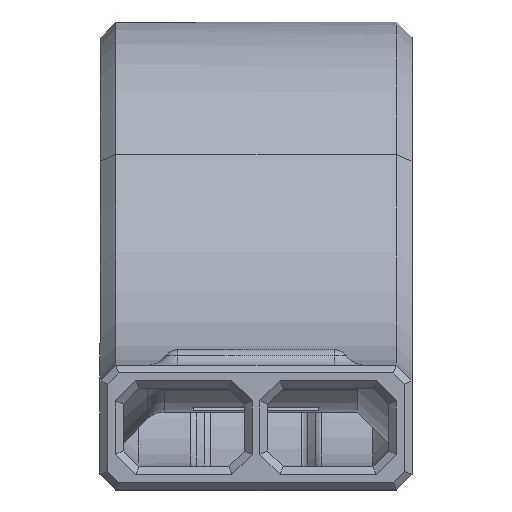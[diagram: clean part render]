
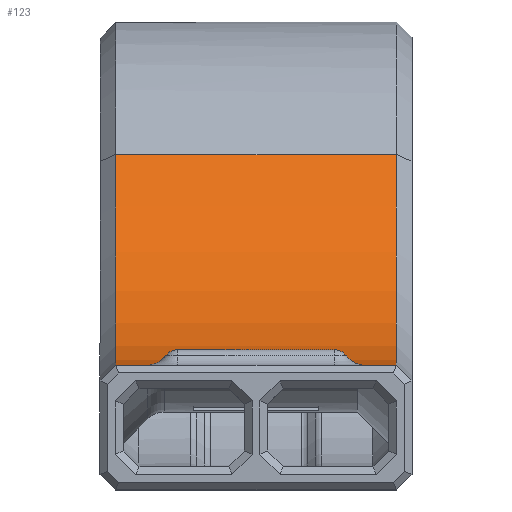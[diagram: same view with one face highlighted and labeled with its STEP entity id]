
A CAD part, left-side view. The second image highlights one B-rep face of the part: STEP entity #123.
In plain terms, the highlighted cylindrical face has radius 23.841 mm (diameter 47.682 mm), a partial arc.
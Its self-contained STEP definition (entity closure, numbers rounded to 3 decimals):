
#78 = CARTESIAN_POINT ( 'NONE',  ( -35., 19., -7. ) ) ;
#123 = ADVANCED_FACE ( 'NONE', ( #3523 ), #5487, .F. ) ;
#401 = DIRECTION ( 'NONE',  ( 0., -1., 0. ) ) ;
#1052 = VERTEX_POINT ( 'NONE', #78 ) ;
#1134 = VECTOR ( 'NONE', #2060, 1000. ) ;
#1349 = LINE ( 'NONE', #1837, #5750 ) ;
#1745 = EDGE_CURVE ( 'NONE', #4617, #6886, #2747, .T. ) ;
#1837 = CARTESIAN_POINT ( 'NONE',  ( -13.517, 20., 6.504 ) ) ;
#2060 = DIRECTION ( 'NONE',  ( 0., -1., 0. ) ) ;
#2095 = CARTESIAN_POINT ( 'NONE',  ( -35., 20., 16.841 ) ) ;
#2118 = EDGE_CURVE ( 'NONE', #5045, #1052, #6701, .T. ) ;
#2154 = DIRECTION ( 'NONE',  ( 0., -1., 0. ) ) ;
#2478 = CARTESIAN_POINT ( 'NONE',  ( -13.517, 19., 6.504 ) ) ;
#2747 = CIRCLE ( 'NONE', #5124, 23.841 ) ;
#3251 = CARTESIAN_POINT ( 'NONE',  ( -35., 19., 16.841 ) ) ;
#3419 = ORIENTED_EDGE ( 'NONE', *, *, #1745, .T. ) ;
#3523 = FACE_OUTER_BOUND ( 'NONE', #7634, .T. ) ;
#3752 = ORIENTED_EDGE ( 'NONE', *, *, #8305, .T. ) ;
#4617 = VERTEX_POINT ( 'NONE', #5602 ) ;
#4653 = CARTESIAN_POINT ( 'NONE',  ( -13.517, 1., 6.504 ) ) ;
#5045 = VERTEX_POINT ( 'NONE', #2478 ) ;
#5124 = AXIS2_PLACEMENT_3D ( 'NONE', #6685, #8732, #7464 ) ;
#5487 = CYLINDRICAL_SURFACE ( 'NONE', #7553, 23.841 ) ;
#5602 = CARTESIAN_POINT ( 'NONE',  ( -35., 1., -7. ) ) ;
#5750 = VECTOR ( 'NONE', #401, 1000. ) ;
#6247 = CARTESIAN_POINT ( 'NONE',  ( -35., 20., -7. ) ) ;
#6280 = DIRECTION ( 'NONE',  ( 0., 0., -1. ) ) ;
#6338 = ORIENTED_EDGE ( 'NONE', *, *, #2118, .T. ) ;
#6408 = AXIS2_PLACEMENT_3D ( 'NONE', #3251, #7408, #8768 ) ;
#6685 = CARTESIAN_POINT ( 'NONE',  ( -35., 1., 16.841 ) ) ;
#6701 = CIRCLE ( 'NONE', #6408, 23.841 ) ;
#6772 = ORIENTED_EDGE ( 'NONE', *, *, #7614, .F. ) ;
#6886 = VERTEX_POINT ( 'NONE', #4653 ) ;
#7408 = DIRECTION ( 'NONE',  ( 0., 1., 0. ) ) ;
#7464 = DIRECTION ( 'NONE',  ( 0., 0., 1. ) ) ;
#7553 = AXIS2_PLACEMENT_3D ( 'NONE', #2095, #2154, #6280 ) ;
#7614 = EDGE_CURVE ( 'NONE', #5045, #6886, #1349, .T. ) ;
#7634 = EDGE_LOOP ( 'NONE', ( #3752, #3419, #6772, #6338 ) ) ;
#8305 = EDGE_CURVE ( 'NONE', #1052, #4617, #8321, .T. ) ;
#8321 = LINE ( 'NONE', #6247, #1134 ) ;
#8732 = DIRECTION ( 'NONE',  ( 0., -1., 0. ) ) ;
#8768 = DIRECTION ( 'NONE',  ( 0., 0., 1. ) ) ;
